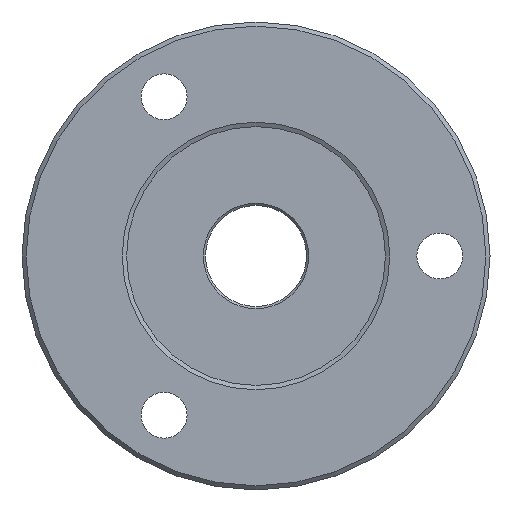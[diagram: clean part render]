
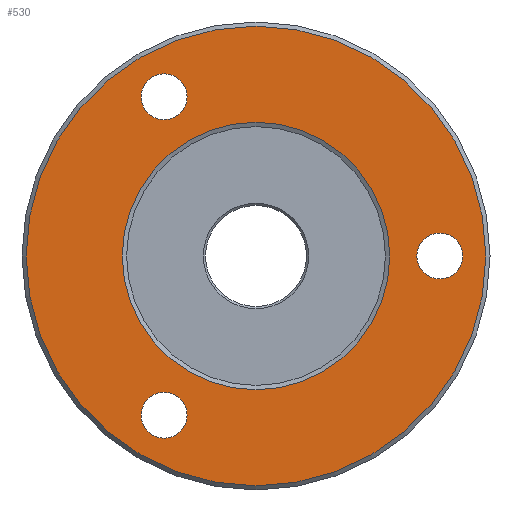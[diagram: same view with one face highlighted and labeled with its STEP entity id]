
A CAD part, left-side view. The second image highlights one B-rep face of the part: STEP entity #530.
In plain terms, the highlighted planar face has unit normal (-1, 0, 0).
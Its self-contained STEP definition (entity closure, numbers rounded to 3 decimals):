
#34=PLANE('',#591);
#70=FACE_BOUND('',#160,.T.);
#71=FACE_BOUND('',#161,.T.);
#72=FACE_BOUND('',#162,.T.);
#73=FACE_BOUND('',#163,.T.);
#74=FACE_BOUND('',#164,.T.);
#160=EDGE_LOOP('',(#406));
#161=EDGE_LOOP('',(#407));
#162=EDGE_LOOP('',(#408));
#163=EDGE_LOOP('',(#409));
#164=EDGE_LOOP('',(#410));
#231=CIRCLE('',#590,27.5);
#232=CIRCLE('',#592,16.);
#233=CIRCLE('',#593,2.75);
#234=CIRCLE('',#594,2.75);
#235=CIRCLE('',#595,2.75);
#281=VERTEX_POINT('',#884);
#282=VERTEX_POINT('',#887);
#283=VERTEX_POINT('',#889);
#284=VERTEX_POINT('',#891);
#285=VERTEX_POINT('',#893);
#334=EDGE_CURVE('',#281,#281,#231,.T.);
#335=EDGE_CURVE('',#282,#282,#232,.T.);
#336=EDGE_CURVE('',#283,#283,#233,.T.);
#337=EDGE_CURVE('',#284,#284,#234,.T.);
#338=EDGE_CURVE('',#285,#285,#235,.T.);
#406=ORIENTED_EDGE('',*,*,#335,.T.);
#407=ORIENTED_EDGE('',*,*,#336,.T.);
#408=ORIENTED_EDGE('',*,*,#337,.T.);
#409=ORIENTED_EDGE('',*,*,#338,.T.);
#410=ORIENTED_EDGE('',*,*,#334,.F.);
#530=ADVANCED_FACE('',(#70,#71,#72,#73,#74),#34,.T.);
#590=AXIS2_PLACEMENT_3D('',#885,#710,#711);
#591=AXIS2_PLACEMENT_3D('',#886,#712,#713);
#592=AXIS2_PLACEMENT_3D('',#888,#714,#715);
#593=AXIS2_PLACEMENT_3D('',#890,#716,#717);
#594=AXIS2_PLACEMENT_3D('',#892,#718,#719);
#595=AXIS2_PLACEMENT_3D('',#894,#720,#721);
#710=DIRECTION('center_axis',(1.,0.,0.));
#711=DIRECTION('ref_axis',(0.,-1.,0.));
#712=DIRECTION('center_axis',(-1.,0.,0.));
#713=DIRECTION('ref_axis',(0.,0.,1.));
#714=DIRECTION('center_axis',(1.,0.,0.));
#715=DIRECTION('ref_axis',(0.,0.,-1.));
#716=DIRECTION('center_axis',(1.,0.,0.));
#717=DIRECTION('ref_axis',(0.,0.,-1.));
#718=DIRECTION('center_axis',(1.,0.,0.));
#719=DIRECTION('ref_axis',(0.,0.866,0.5));
#720=DIRECTION('center_axis',(1.,0.,0.));
#721=DIRECTION('ref_axis',(0.,-0.866,0.5));
#884=CARTESIAN_POINT('',(-13.137,24.119,0.));
#885=CARTESIAN_POINT('Origin',(-13.137,-3.381,0.));
#886=CARTESIAN_POINT('Origin',(-13.137,24.619,0.));
#887=CARTESIAN_POINT('',(-13.137,12.619,0.));
#888=CARTESIAN_POINT('Origin',(-13.137,-3.381,0.));
#889=CARTESIAN_POINT('',(-13.137,-25.381,2.75));
#890=CARTESIAN_POINT('Origin',(-13.137,-25.381,0.));
#891=CARTESIAN_POINT('',(-13.137,5.237,-20.428));
#892=CARTESIAN_POINT('Origin',(-13.137,7.619,-19.053));
#893=CARTESIAN_POINT('',(-13.137,10.,17.678));
#894=CARTESIAN_POINT('Origin',(-13.137,7.619,19.053));
